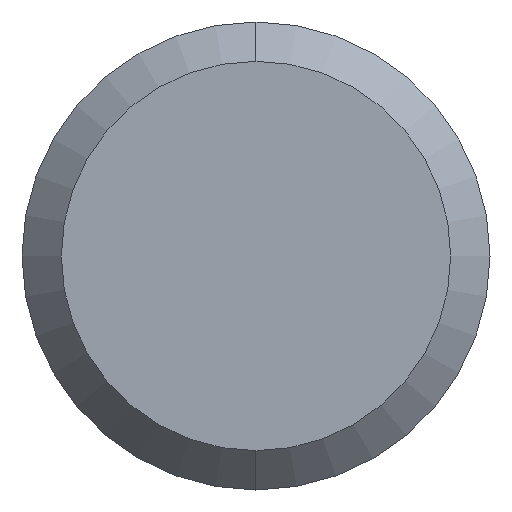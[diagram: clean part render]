
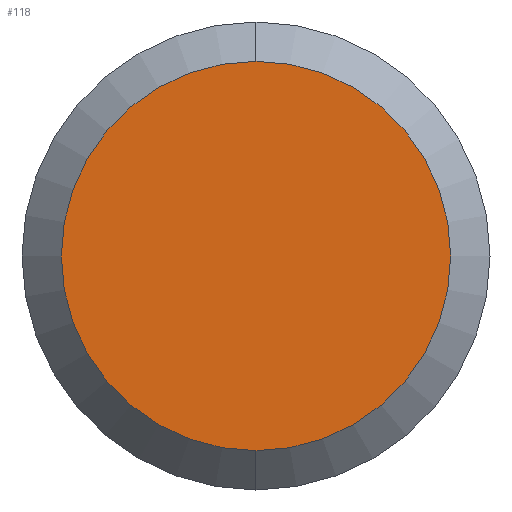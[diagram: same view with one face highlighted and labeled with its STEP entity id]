
A CAD part, left-side view. The second image highlights one B-rep face of the part: STEP entity #118.
In plain terms, the highlighted planar face has unit normal (-1, 0, 0).
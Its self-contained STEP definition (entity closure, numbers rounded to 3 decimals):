
#24 = AXIS2_PLACEMENT_3D ( 'NONE', #333, #70, #184 ) ;
#44 = ORIENTED_EDGE ( 'NONE', *, *, #179, .T. ) ;
#70 = DIRECTION ( 'NONE',  ( -1., 0., 0. ) ) ;
#110 = DIRECTION ( 'NONE',  ( -1., 0., 0. ) ) ;
#118 = ADVANCED_FACE ( 'NONE', ( #130 ), #399, .F. ) ;
#130 = FACE_OUTER_BOUND ( 'NONE', #456, .T. ) ;
#131 = ORIENTED_EDGE ( 'NONE', *, *, #159, .T. ) ;
#159 = EDGE_CURVE ( 'NONE', #359, #413, #170, .T. ) ;
#170 = CIRCLE ( 'NONE', #24, 3.962 ) ;
#176 = CARTESIAN_POINT ( 'NONE',  ( -138.1, 4.763, 0. ) ) ;
#179 = EDGE_CURVE ( 'NONE', #413, #359, #263, .T. ) ;
#184 = DIRECTION ( 'NONE',  ( 0., 0., -1. ) ) ;
#204 = CARTESIAN_POINT ( 'NONE',  ( -138.1, 0., -3.962 ) ) ;
#230 = DIRECTION ( 'NONE',  ( 0., 0., -1. ) ) ;
#245 = AXIS2_PLACEMENT_3D ( 'NONE', #176, #435, #230 ) ;
#263 = CIRCLE ( 'NONE', #447, 3.962 ) ;
#300 = CARTESIAN_POINT ( 'NONE',  ( -138.1, 0., 0. ) ) ;
#327 = CARTESIAN_POINT ( 'NONE',  ( -138.1, 0., 3.962 ) ) ;
#333 = CARTESIAN_POINT ( 'NONE',  ( -138.1, 0., 0. ) ) ;
#338 = DIRECTION ( 'NONE',  ( 0., 0., -1. ) ) ;
#359 = VERTEX_POINT ( 'NONE', #327 ) ;
#399 = PLANE ( 'NONE',  #245 ) ;
#413 = VERTEX_POINT ( 'NONE', #204 ) ;
#435 = DIRECTION ( 'NONE',  ( 1., 0., 0. ) ) ;
#447 = AXIS2_PLACEMENT_3D ( 'NONE', #300, #110, #338 ) ;
#456 = EDGE_LOOP ( 'NONE', ( #44, #131 ) ) ;
